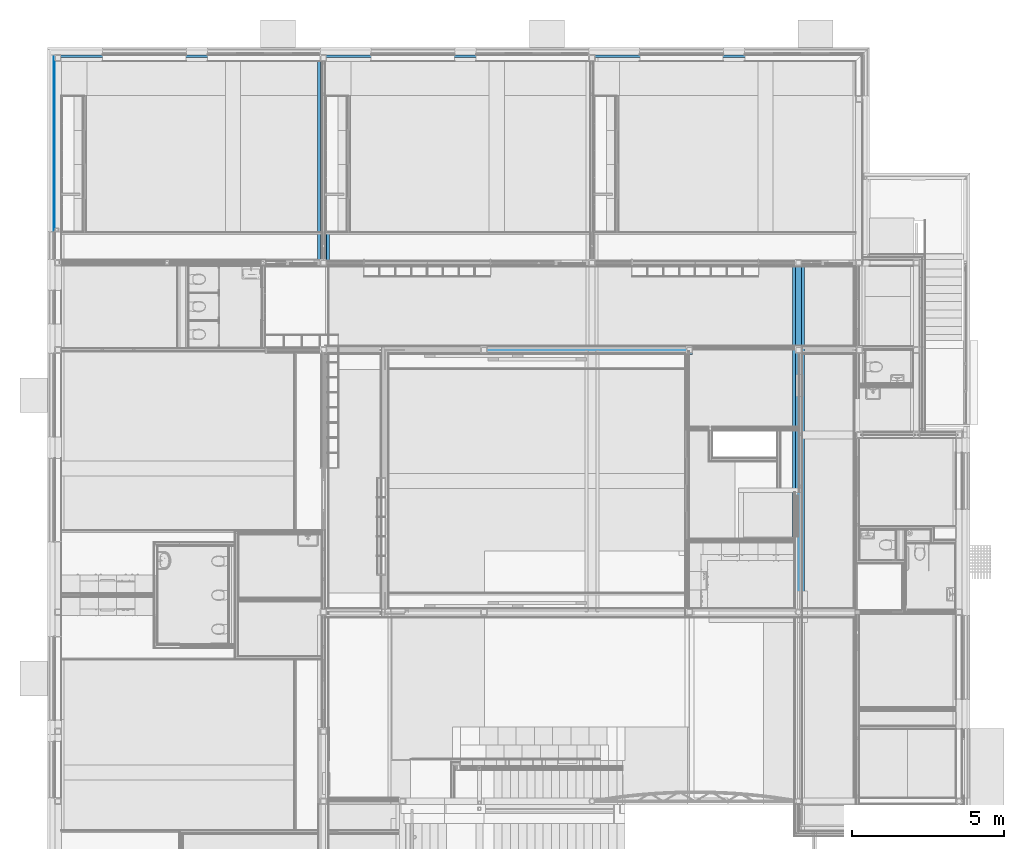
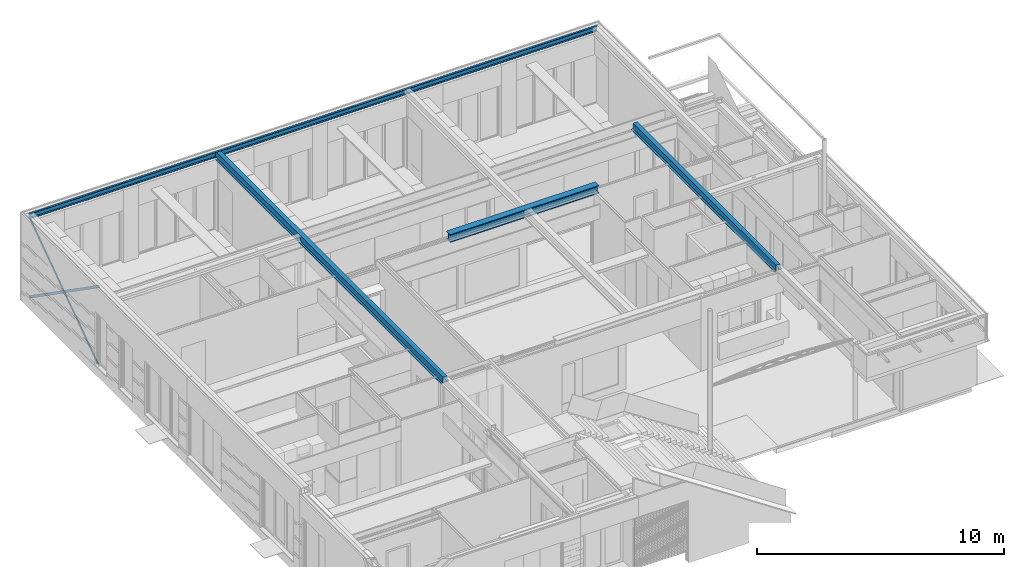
# One storey, part 13 of 165: 6 beams.
"""IFC2X3 building model written with IfcOpenShell, lengths in millimetres."""

from ifc_helpers import new_model, entity, si_unit, converted_unit, derived_unit, money_unit, direction, frame, origin_with_axes, place, context, subcontext, project, spatial, faceted_brep, material, type_object, element, save


model = new_model("IFC2X3")

# Units and contexts
model_context = context("Model", 3, precision=0.01, world=origin_with_axes(), true_north=direction((0.0, 1.0)))
body_context = subcontext(model_context, "Body", "Model", "MODEL_VIEW")
ifc_project = project(units=[si_unit("LENGTHUNIT", "METRE", prefix="MILLI"), si_unit("AREAUNIT", "SQUARE_METRE"), si_unit("VOLUMEUNIT", "CUBIC_METRE"), converted_unit("PLANEANGLEUNIT", "DEGREE", entity("IfcPlaneAngleMeasure", 0.0174532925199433), si_unit("PLANEANGLEUNIT", "RADIAN"), dimensions=[0, 0, 0, 0, 0, 0, 0]), money_unit("EUR"), converted_unit("TIMEUNIT", "Year", entity("IfcTimeMeasure", 31556926.0), si_unit("TIMEUNIT", "SECOND"), dimensions=[0, 0, 1, 0, 0, 0, 0]), si_unit("MASSUNIT", "GRAM", prefix="KILO"), si_unit("THERMODYNAMICTEMPERATUREUNIT", "DEGREE_CELSIUS"), si_unit("LUMINOUSINTENSITYUNIT", "LUMEN"), si_unit("ENERGYUNIT", "JOULE", prefix="MEGA"), derived_unit("THERMALCONDUCTANCEUNIT", [(si_unit("POWERUNIT", "WATT"), 1), (si_unit("LENGTHUNIT", "METRE"), -1), (si_unit("THERMODYNAMICTEMPERATUREUNIT", "KELVIN"), -1)]), derived_unit("SPECIFICHEATCAPACITYUNIT", [(si_unit("ENERGYUNIT", "JOULE"), 1), (si_unit("MASSUNIT", "GRAM", prefix="KILO"), -1), (si_unit("THERMODYNAMICTEMPERATUREUNIT", "KELVIN"), -1)]), derived_unit("MASSDENSITYUNIT", [(si_unit("MASSUNIT", "GRAM", prefix="KILO"), 1), (si_unit("VOLUMEUNIT", "CUBIC_METRE"), -1)])], contexts=[model_context])

# Site, building, storey
site_placement = place(None, origin_with_axes())
site = spatial("IfcSite", under=ifc_project, at=site_placement, Name="Site", CompositionType="ELEMENT")
building_placement = place(site_placement, origin_with_axes())
building = spatial("IfcBuilding", under=site, at=building_placement, Name="Naam gebouw", CompositionType="ELEMENT")
storey_placement = place(building_placement, origin_with_axes())
storey = spatial("IfcBuildingStorey", under=building, at=storey_placement, Name="Begane grond", CompositionType="ELEMENT", Elevation=0.0)

# Beams
ifc_material = material(Name="Metaal - Staal C")
beam_type_1 = type_object("IfcBeamType", Name="UNP260 90 x 260", PredefinedType="BEAM")
beam_1_placement = place(storey_placement, frame((0.0, 29175.0, 3729.999999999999), z_axis=(0.0, 0.0, 1.0), x_axis=(0.0, -1.0, 0.0)))
element("IfcBeam", 1, at=beam_1_placement, inside=storey, type_object=beam_type_1, material=ifc_material, Name="h METAAL_Regenwaterafvoer-x", ObjectType="BEAM", context=body_context, shape_type="Brep", body=[
    faceted_brep([(0.0, 0.0, -129.9999999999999), (0.0, 26600.0, -129.9999999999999), (89.99999999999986, 26600.0, -129.9999999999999), (89.99999999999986, 0.0, -129.9999999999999), (0.0, 0.0, 129.9999999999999), (0.0, 26600.0, 129.9999999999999), (89.99999999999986, 26600.0, 129.9999999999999), (89.99999999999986, 26600.0, 116.0000000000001), (9.99999999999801, 26600.0, 116.0000000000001), (9.99999999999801, 26600.0, -116.0000000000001), (89.99999999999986, 26600.0, -116.0000000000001), (89.99999999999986, 0.0, -116.0000000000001), (10.00000000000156, 0.0, -116.0000000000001), (10.00000000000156, 0.0, 116.0000000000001), (89.99999999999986, 0.0, 116.0000000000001), (89.99999999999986, 0.0, 129.9999999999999)], [[[0, 1, 2, 3]], [[4, 5, 1, 0]], [[2, 1, 5, 6, 7, 8, 9, 10]], [[3, 2, 10, 11]], [[4, 0, 3, 11, 12, 13, 14, 15]], [[15, 6, 5, 4]], [[14, 7, 6, 15]], [[13, 8, 7, 14]], [[12, 9, 8, 13]], [[11, 10, 9, 12]]]),
])
beam_type_2 = type_object("IfcBeamType", Name="HEM360 308 x 395", PredefinedType="BEAM")
beam_2_placement = place(storey_placement, frame((21009.99793409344, 19449.99981121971, 3662.499999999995), z_axis=(0.0, 0.0, 1.0), x_axis=(0.0, 1.0, 0.0)))
element("IfcBeam", 2, at=beam_2_placement, inside=storey, type_object=beam_type_2, material=ifc_material, Name="h METAAL_Regenwaterafvoer-x", ObjectType="BEAM", context=body_context, shape_type="Brep", body=[
    faceted_brep([(-90.0000000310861, 10.00000000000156, -197.5000000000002), (-90.0000000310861, 190.0000000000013, -197.5000000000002), (89.99999996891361, 190.0000000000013, -197.5000000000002), (89.99999996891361, 10.00000000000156, -197.5000000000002), (-90.0000000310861, 190.0000000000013, -167.5), (-90.0000000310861, 10.00000000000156, -167.5), (89.99999996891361, 190.0000000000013, -167.5), (89.99999996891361, 10.00000000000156, -167.5), (99.99999996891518, 200.0000000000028, -167.5), (99.99999996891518, 0.0, -167.5), (-100.0000000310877, 0.0, -167.5), (-100.0000000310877, 200.0000000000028, -167.5), (99.99999996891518, 200.0000000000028, -197.5000000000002), (99.99999996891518, 0.0, -197.5000000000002), (-153.9999999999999, 0.0, -197.5000000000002), (-100.0000000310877, 0.0, -197.5000000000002), (153.9999999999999, 0.0, -197.5000000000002), (153.9999999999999, 0.0, -157.5000000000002), (10.5000000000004, 0.0, -157.5000000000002), (10.5000000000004, 0.0, 157.5000000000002), (153.9999999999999, 0.0, 157.5000000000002), (153.9999999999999, 0.0, 197.5000000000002), (-153.9999999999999, 0.0, 197.5000000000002), (-153.9999999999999, 0.0, 157.5000000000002), (-10.5000000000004, 0.0, 157.5000000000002), (-10.5000000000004, 0.0, -157.5000000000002), (-153.9999999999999, 0.0, -157.5000000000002), (-100.0000000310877, 200.0000000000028, -197.5000000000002), (-153.9999999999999, 6969.999984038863, -197.5000000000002), (-99.99999999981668, 6969.999984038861, -197.5000000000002), (-99.99999999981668, 6769.999984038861, -197.5000000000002), (100.0000000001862, 6769.999984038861, -197.5000000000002), (100.0000000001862, 6969.999984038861, -197.5000000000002), (153.9999999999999, 6969.999984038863, -197.5000000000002), (153.9999999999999, 6969.999984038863, -157.5000000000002), (10.5000000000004, 6969.999984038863, -157.5000000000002), (10.5000000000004, 6969.999984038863, 157.5000000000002), (153.9999999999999, 6969.999984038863, 157.5000000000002), (153.9999999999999, 6969.999984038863, 197.5000000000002), (-153.9999999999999, 6969.999984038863, 197.5000000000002), (-153.9999999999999, 6969.999984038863, 157.5000000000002), (-10.5000000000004, 6969.999984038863, 157.5000000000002), (-10.5000000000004, 6969.999984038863, -157.5000000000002), (-153.9999999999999, 6969.999984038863, -157.5000000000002), (100.0000000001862, 6969.999984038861, -167.5), (-99.99999999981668, 6969.999984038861, -167.5), (-99.99999999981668, 6769.999984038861, -167.5), (100.0000000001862, 6769.999984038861, -167.5), (90.0000000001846, 6959.999984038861, -167.5), (-89.99999999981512, 6959.999984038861, -167.5), (-89.99999999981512, 6779.999984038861, -167.5), (90.0000000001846, 6779.999984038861, -167.5), (90.0000000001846, 6959.999984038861, -197.5000000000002), (-89.99999999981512, 6959.999984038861, -197.5000000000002), (-89.99999999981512, 6779.999984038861, -197.5000000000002), (90.0000000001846, 6779.999984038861, -197.5000000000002)], [[[0, 1, 2, 3]], [[4, 1, 0, 5]], [[6, 2, 1, 4]], [[7, 3, 2, 6]], [[5, 0, 3, 7]], [[8, 9, 10, 11], [6, 4, 5, 7]], [[12, 13, 9, 8]], [[14, 15, 10, 9, 13, 16, 17, 18, 19, 20, 21, 22, 23, 24, 25, 26]], [[11, 10, 15, 27]], [[11, 27, 12, 8]], [[12, 27, 15, 14, 28, 29, 30, 31, 32, 33, 16, 13]], [[17, 16, 33, 34]], [[18, 17, 34, 35]], [[19, 18, 35, 36]], [[20, 19, 36, 37]], [[21, 20, 37, 38]], [[22, 21, 38, 39]], [[23, 22, 39, 40]], [[24, 23, 40, 41]], [[25, 24, 41, 42]], [[26, 25, 42, 43]], [[14, 26, 43, 28]], [[44, 45, 29, 28, 43, 42, 41, 40, 39, 38, 37, 36, 35, 34, 33, 32]], [[46, 30, 29, 45]], [[47, 31, 30, 46]], [[44, 32, 31, 47]], [[46, 45, 44, 47], [48, 49, 50, 51]], [[48, 52, 53, 49]], [[49, 53, 54, 50]], [[50, 54, 55, 51]], [[51, 55, 52, 48]], [[54, 53, 52, 55]]]),
])
beam_type_3 = type_object("IfcBeamType", Name="28 THQ 01 400 x 280", PredefinedType="BEAM")
beam_3_placement = place(storey_placement, frame((24499.99903999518, 22424.99984707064, 3860.000026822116), z_axis=(0.0, 0.0, 1.0), x_axis=(-1.0, 0.0, 0.0)))
element("IfcBeam", 3, at=beam_3_placement, inside=storey, type_object=beam_type_3, material=ifc_material, Name="h METAAL_Regenwaterafvoer-x", ObjectType="BEAM", context=body_context, shape_type="Brep", body=[
    faceted_brep([(-84.35000000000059, 11614.99973651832, -264.9999977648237), (84.35000000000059, 11614.99973651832, -264.9999977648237), (84.35000000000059, 11614.99973651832, -279.9999977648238), (-84.35000000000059, 11614.99973651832, -279.9999977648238), (70.95973549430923, 11569.39668356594, -264.9999977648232), (80.93323232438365, 11591.23559534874, -264.9999977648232), (-80.93323232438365, 11591.23559534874, -264.9999977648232), (-70.95973549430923, 11569.39668356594, -264.9999977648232), (-55.23750290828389, 11551.25225992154, -264.9999977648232), (-35.04025634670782, 11538.27227771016, -264.9999977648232), (-12.00425660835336, 11531.50829789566, -264.9999977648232), (12.00425660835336, 11531.50829789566, -264.9999977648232), (35.04025634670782, 11538.27227771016, -264.9999977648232), (55.23750290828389, 11551.25225992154, -264.9999977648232), (80.93323232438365, 11591.23559534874, -279.9999977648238), (-70.95973549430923, 11569.39668356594, -279.9999977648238), (-80.93323232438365, 11591.23559534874, -279.9999977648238), (70.95973549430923, 11569.39668356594, -279.9999977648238), (55.23750290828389, 11551.25225992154, -279.9999977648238), (35.04025634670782, 11538.27227771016, -279.9999977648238), (12.00425660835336, 11531.50829789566, -279.9999977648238), (-12.00425660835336, 11531.50829789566, -279.9999977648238), (-35.04025634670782, 11538.27227771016, -279.9999977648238), (-55.23750290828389, 11551.25225992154, -279.9999977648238)], [[[0, 1, 2, 3]], [[4, 5, 1, 0, 6, 7, 8, 9, 10, 11, 12, 13]], [[2, 1, 5, 14]], [[15, 16, 3, 2, 14, 17, 18, 19, 20, 21, 22, 23]], [[16, 6, 0, 3]], [[14, 5, 4, 17]], [[15, 7, 6, 16]], [[23, 8, 7, 15]], [[22, 9, 8, 23]], [[21, 10, 9, 22]], [[20, 11, 10, 21]], [[19, 12, 11, 20]], [[18, 13, 12, 19]], [[17, 4, 13, 18]]]),
    faceted_brep([(-89.98443325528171, 3064.99945414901, -279.9999977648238), (90.015566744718, 3064.99945414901, -279.9999977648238), (90.015566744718, 2884.99945414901, -279.9999977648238), (-89.98443325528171, 2884.99945414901, -279.9999977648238), (-89.98443325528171, 3064.99945414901, -264.9999977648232), (90.015566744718, 3064.99945414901, -264.9999977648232), (90.015566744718, 2884.99945414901, -264.9999977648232), (-89.98443325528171, 2884.99945414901, -264.9999977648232)], [[[0, 1, 2, 3]], [[0, 4, 5, 1]], [[1, 5, 6, 2]], [[2, 6, 7, 3]], [[3, 7, 4, 0]], [[6, 5, 4, 7]]]),
    faceted_brep([(-90.00000000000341, 190.0000000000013, -279.9999977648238), (89.9999999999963, 190.0000000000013, -279.9999977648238), (89.9999999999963, 10.00000000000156, -279.9999977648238), (-90.00000000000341, 10.00000000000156, -279.9999977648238), (-90.00000000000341, 190.0000000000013, -264.9999977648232), (89.9999999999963, 190.0000000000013, -264.9999977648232), (89.9999999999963, 10.00000000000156, -264.9999977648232), (-90.00000000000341, 10.00000000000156, -264.9999977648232)], [[[0, 1, 2, 3]], [[0, 4, 5, 1]], [[1, 5, 6, 2]], [[2, 6, 7, 3]], [[3, 7, 4, 0]], [[6, 5, 4, 7]]]),
    faceted_brep([(94.99999999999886, 0.0, -260.0000268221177), (99.99999999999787, 0.0, -260.0000268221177), (99.99999999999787, 0.0, -279.9999977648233), (199.9999999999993, 0.0, -279.9999977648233), (199.9999999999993, 0.0, -264.9999977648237), (100.9999999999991, 0.0, -264.9999977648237), (100.9999999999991, 0.0, 0.0), (-100.9999999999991, 0.0, 0.0), (-100.9999999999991, 0.0, -264.9999977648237), (-199.9999999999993, 0.0, -264.9999977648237), (-199.9999999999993, 0.0, -279.9999977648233), (-100.000000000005, 0.0, -279.9999977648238), (-100.000000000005, 0.0, -260.0000268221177), (-94.99999999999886, 0.0, -260.0000268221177), (-94.99999999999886, 0.0, -29.9999999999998), (94.99999999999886, 0.0, -29.9999999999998), (99.99999999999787, 200.0000000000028, -260.0000268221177), (94.99999999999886, 200.0000000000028, -260.0000268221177), (99.99999999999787, 200.0000000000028, -279.9999977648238), (-100.000000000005, 200.0000000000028, -279.9999977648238), (-200.0000000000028, 11614.99973651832, -279.9999977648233), (-96.84999999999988, 11614.99973651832, -279.9999977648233), (-92.92689449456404, 11587.71393838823, -279.9999977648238), (-81.47540465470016, 11562.63867334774, -279.9999977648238), (-63.42326208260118, 11541.80539024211, -279.9999977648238), (-40.23294400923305, 11526.90187776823, -279.9999977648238), (-13.78319208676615, 11519.13552987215, -279.9999977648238), (13.78319208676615, 11519.13552987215, -279.9999977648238), (40.23294400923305, 11526.90187776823, -279.9999977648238), (63.42326208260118, 11541.80539024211, -279.9999977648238), (81.47540465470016, 11562.63867334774, -279.9999977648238), (92.92689449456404, 11587.71393838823, -279.9999977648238), (96.84999999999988, 11614.99973651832, -279.9999977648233), (199.9999999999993, 11614.99973651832, -279.9999977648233), (100.0155667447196, 2874.999454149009, -279.9999977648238), (100.0155667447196, 3074.999454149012, -279.9999977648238), (-99.98443325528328, 3074.999454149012, -279.9999977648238), (-99.98443325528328, 2874.999454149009, -279.9999977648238), (199.9999999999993, 11614.99973651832, -264.9999977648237), (100.9999999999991, 11614.99973651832, -264.9999977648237), (100.9999999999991, 11614.99973651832, 0.0), (-101.0000000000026, 11614.99973651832, 0.0), (-101.0000000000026, 11614.99973651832, -264.9999977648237), (-200.0000000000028, 11614.99973651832, -264.9999977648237), (-100.000000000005, 200.0000000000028, -260.0000268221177), (-94.99999999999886, 200.0000000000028, -260.0000268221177), (-94.99999999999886, 200.0000000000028, -264.9999977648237), (-94.99999999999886, 2874.999454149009, -264.9999977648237), (-94.99999999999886, 2874.999454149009, -260.0000268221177), (-94.99999999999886, 3074.999454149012, -260.0000268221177), (-94.99999999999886, 3074.999454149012, -264.9999977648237), (-95.00000000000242, 11602.13270389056, -264.9999977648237), (-94.99999999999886, 11602.13270389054, -260.0000268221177), (-95.00000000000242, 11614.99973651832, -260.0000268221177), (-95.00000000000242, 11614.99973651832, -29.9999999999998), (94.99999999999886, 11614.99973651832, -29.9999999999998), (94.99999999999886, 200.0000000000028, -264.9999977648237), (94.99999999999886, 11614.99973651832, -260.0000268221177), (94.99999999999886, 11602.13270389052, -260.0000268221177), (94.99999999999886, 11602.13270389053, -264.9999977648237), (94.99999999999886, 3074.999454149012, -264.9999977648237), (94.99999999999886, 3074.999454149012, -260.0000268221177), (94.99999999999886, 2874.999454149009, -260.0000268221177), (94.99999999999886, 2874.999454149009, -264.9999977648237), (96.84999999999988, 11614.99973651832, -260.0000268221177), (-96.84999999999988, 11614.99973651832, -260.0000268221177), (-92.92689449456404, 11587.71393838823, -264.9999977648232), (-81.47540465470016, 11562.63867334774, -264.9999977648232), (-63.42326208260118, 11541.80539024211, -264.9999977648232), (-40.23294400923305, 11526.90187776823, -264.9999977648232), (-13.78319208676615, 11519.13552987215, -264.9999977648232), (13.78319208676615, 11519.13552987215, -264.9999977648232), (40.23294400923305, 11526.90187776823, -264.9999977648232), (63.42326208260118, 11541.80539024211, -264.9999977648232), (81.47540465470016, 11562.63867334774, -264.9999977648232), (92.92689449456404, 11587.71393838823, -264.9999977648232), (100.0155667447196, 3074.999454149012, -260.0000268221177), (100.0155667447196, 2874.999454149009, -260.0000268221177), (-99.98443325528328, 3074.999454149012, -260.0000268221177), (-99.98443325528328, 2874.999454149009, -260.0000268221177)], [[[0, 1, 2, 3, 4, 5, 6, 7, 8, 9, 10, 11, 12, 13, 14, 15]], [[16, 1, 0, 17]], [[18, 2, 1, 16]], [[18, 19, 11, 10, 20, 21, 22, 23, 24, 25, 26, 27, 28, 29, 30, 31, 32, 33, 3, 2], [34, 35, 36, 37]], [[38, 4, 3, 33]], [[39, 5, 4, 38]], [[40, 6, 5, 39]], [[41, 7, 6, 40]], [[42, 8, 7, 41]], [[43, 9, 8, 42]], [[20, 10, 9, 43]], [[44, 12, 11, 19]], [[45, 13, 12, 44]], [[13, 45, 46, 47, 48, 49, 50, 51, 52, 53, 54, 14]], [[55, 15, 14, 54]], [[56, 17, 0, 15, 55, 57, 58, 59, 60, 61, 62, 63]], [[44, 19, 18, 16, 17, 56, 46, 45]], [[32, 64, 57, 55, 54, 53, 65, 21, 20, 43, 42, 41, 40, 39, 38, 33]], [[66, 22, 21, 65, 52, 51]], [[22, 66, 67, 23]], [[23, 67, 68, 24]], [[24, 68, 69, 25]], [[25, 69, 70, 26]], [[26, 70, 71, 27]], [[27, 71, 72, 28]], [[28, 72, 73, 29]], [[29, 73, 74, 30]], [[30, 74, 75, 31]], [[31, 75, 59, 58, 64, 32]], [[76, 35, 34, 77]], [[78, 36, 35, 76, 61, 60, 50, 49]], [[79, 37, 36, 78]], [[77, 34, 37, 79, 48, 47, 63, 62]], [[47, 46, 56, 63]], [[78, 49, 48, 79]], [[51, 50, 60, 59, 75, 74, 73, 72, 71, 70, 69, 68, 67, 66]], [[52, 65, 53]], [[64, 58, 57]], [[77, 62, 61, 76]]]),
])
beam_type_4 = type_object("IfcBeamType", Name="28 THQ 03 400 x 290", PredefinedType="BEAM")
beam_4_placement = place(storey_placement, frame((8850.000000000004, 29175.0, 3860.0), z_axis=(0.0, 0.0, 1.0), x_axis=(-1.0, 0.0, 0.0)))
element("IfcBeam", 4, at=beam_4_placement, inside=storey, type_object=beam_type_4, material=ifc_material, Name="h METAAL_Regenwaterafvoer-x", ObjectType="BEAM", context=body_context, shape_type="Brep", body=[
    faceted_brep([(-90.00000000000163, 190.0000000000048, -289.9999977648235), (89.99999999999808, 190.0000000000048, -289.9999977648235), (89.99999999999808, 10.00000000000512, -289.9999977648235), (-90.00000000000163, 10.00000000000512, -289.9999977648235), (-90.00000000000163, 190.0000000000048, -264.9999977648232), (89.99999999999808, 190.0000000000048, -264.9999977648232), (89.99999999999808, 10.00000000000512, -264.9999977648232), (-90.00000000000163, 10.00000000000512, -264.9999977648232)], [[[0, 1, 2, 3]], [[0, 4, 5, 1]], [[1, 5, 6, 2]], [[2, 6, 7, 3]], [[3, 7, 4, 0]], [[6, 5, 4, 7]]]),
    faceted_brep([(-89.99999999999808, 18454.99988944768, -289.9999977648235), (90.00000000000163, 18454.99988944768, -289.9999977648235), (90.00000000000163, 18274.99988944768, -289.9999977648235), (-89.99999999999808, 18274.99988944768, -289.9999977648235), (-89.99999999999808, 18454.99988944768, -264.9999977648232), (90.00000000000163, 18454.99988944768, -264.9999977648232), (90.00000000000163, 18274.99988944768, -264.9999977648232), (-89.99999999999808, 18274.99988944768, -264.9999977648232)], [[[0, 1, 2, 3]], [[0, 4, 5, 1]], [[1, 5, 6, 2]], [[2, 6, 7, 3]], [[3, 7, 4, 0]], [[6, 5, 4, 7]]]),
    faceted_brep([(-89.99999999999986, 9815.000188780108, -289.9999977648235), (89.99999999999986, 9815.000188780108, -289.9999977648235), (89.99999999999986, 9635.000188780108, -289.9999977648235), (-89.99999999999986, 9635.000188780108, -289.9999977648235), (-89.99999999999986, 9815.000188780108, -264.9999977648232), (89.99999999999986, 9815.000188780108, -264.9999977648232), (89.99999999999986, 9635.000188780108, -264.9999977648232), (-89.99999999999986, 9635.000188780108, -264.9999977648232)], [[[0, 1, 2, 3]], [[0, 4, 5, 1]], [[1, 5, 6, 2]], [[2, 6, 7, 3]], [[3, 7, 4, 0]], [[6, 5, 4, 7]]]),
    faceted_brep([(-89.99999999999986, 6940.000152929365, -289.9999977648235), (89.99999999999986, 6940.000152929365, -289.9999977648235), (89.99999999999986, 6760.000152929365, -289.9999977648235), (-89.99999999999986, 6760.000152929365, -289.9999977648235), (-89.99999999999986, 6940.000152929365, -264.9999977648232), (89.99999999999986, 6940.000152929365, -264.9999977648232), (89.99999999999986, 6760.000152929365, -264.9999977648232), (-89.99999999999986, 6760.000152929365, -264.9999977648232)], [[[0, 1, 2, 3]], [[0, 4, 5, 1]], [[1, 5, 6, 2]], [[2, 6, 7, 3]], [[3, 7, 4, 0]], [[6, 5, 4, 7]]]),
    faceted_brep([(-94.99999999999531, 6750.000152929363, -260.0000000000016), (-94.99999999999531, 6950.000152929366, -260.0000000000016), (-94.99999999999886, 6950.000152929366, -264.9999977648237), (-95.00000000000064, 9625.000188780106, -264.9999977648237), (-94.99999999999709, 9625.000188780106, -260.0000000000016), (-94.99999999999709, 9825.000188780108, -260.0000000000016), (-95.00000000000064, 9825.000188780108, -264.9999977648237), (-95.00000000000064, 18264.99988944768, -264.9999977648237), (-94.99999999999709, 18264.99988944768, -260.0000000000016), (-95.00000000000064, 18464.99988944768, -260.0000000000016), (-95.00000000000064, 18464.99988944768, -40.00000000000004), (-95.00000000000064, 10.00000000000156, -40.00000000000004), (-94.99999999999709, 10.00000000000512, -246.0000000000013), (-94.99999999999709, 90.00000000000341, -246.0000000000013), (-94.99999999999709, 90.00000000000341, -260.0000000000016), (-94.99999999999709, 200.0000000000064, -260.0000000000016), (-95.00000000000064, 200.0000000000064, -264.9999977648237), (-94.99999999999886, 6750.000152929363, -264.9999977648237), (-99.99999999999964, 6950.000152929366, -260.0000000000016), (-99.99999999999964, 6750.000152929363, -260.0000000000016), (-99.99999999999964, 6950.000152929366, -289.9999977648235), (99.99999999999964, 6950.000152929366, -289.9999977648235), (99.99999999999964, 6950.000152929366, -260.0000000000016), (95.00000000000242, 6950.000152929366, -260.0000000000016), (95.00000000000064, 6950.000152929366, -264.9999977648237), (95.00000000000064, 9625.000188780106, -264.9999977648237), (99.99999999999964, 9625.000188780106, -260.0000000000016), (99.99999999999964, 9625.000188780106, -289.9999977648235), (-99.99999999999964, 9625.000188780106, -289.9999977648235), (-99.99999999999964, 9625.000188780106, -260.0000000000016), (95.00000000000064, 9625.000188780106, -260.0000000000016), (-99.99999999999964, 9825.000188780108, -260.0000000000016), (-99.99999999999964, 9825.000188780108, -289.9999977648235), (99.99999999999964, 9825.000188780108, -289.9999977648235), (99.99999999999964, 9825.000188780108, -260.0000000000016), (95.00000000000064, 9825.000188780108, -260.0000000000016), (95.00000000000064, 9825.000188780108, -264.9999977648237), (94.99999999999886, 18264.99988944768, -264.9999977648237), (100.0000000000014, 18264.99988944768, -260.0000000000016), (100.0000000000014, 18264.99988944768, -289.9999977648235), (-99.99999999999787, 18264.99988944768, -289.9999977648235), (-99.99999999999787, 18264.99988944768, -260.0000000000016), (95.00000000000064, 18264.99988944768, -260.0000000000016), (-99.99999999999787, 18464.99988944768, -260.0000000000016), (-99.99999999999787, 18464.99988944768, -289.9999977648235), (-200.0000000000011, 18464.99988944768, -289.9999977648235), (-200.0000000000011, 18464.99988944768, -264.9999977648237), (-102.9999999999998, 18464.99988944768, -264.9999977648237), (-102.9999999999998, 18464.99988944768, 0.0), (102.9999999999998, 18464.99988944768, 0.0), (102.9999999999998, 18464.99988944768, -264.9999977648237), (199.9999999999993, 18464.99988944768, -264.9999977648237), (199.9999999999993, 18464.99988944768, -289.9999977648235), (100.0000000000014, 18464.99988944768, -289.9999977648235), (100.0000000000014, 18464.99988944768, -260.0000000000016), (94.99999999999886, 18464.99988944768, -260.0000000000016), (94.99999999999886, 18464.99988944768, -40.00000000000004), (95.00000000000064, 10.00000000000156, -40.00000000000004), (103.0000000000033, 10.00000000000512, -246.0000000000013), (103.0000000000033, 10.00000000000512, -14.00000000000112), (-102.9999999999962, 10.00000000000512, -14.00000000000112), (-102.9999999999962, 10.00000000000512, -246.0000000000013), (95.00000000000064, 10.00000000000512, -246.0000000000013), (-102.9999999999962, 90.00000000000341, -246.0000000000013), (-102.9999999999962, 90.00000000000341, -260.0000000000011), (-100.0000000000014, 90.00000000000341, -260.0000000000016), (-100.0000000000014, 200.0000000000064, -260.0000000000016), (-100.0000000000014, 200.0000000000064, -289.9999977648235), (99.99999999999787, 200.0000000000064, -289.9999977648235), (99.99999999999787, 200.0000000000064, -260.0000000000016), (95.00000000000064, 200.0000000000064, -260.0000000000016), (95.00000000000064, 200.0000000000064, -264.9999977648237), (95.00000000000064, 6750.000152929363, -264.9999977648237), (99.99999999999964, 6750.000152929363, -260.0000000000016), (99.99999999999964, 6750.000152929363, -289.9999977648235), (-99.99999999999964, 6750.000152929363, -289.9999977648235), (95.00000000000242, 6750.000152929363, -260.0000000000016), (199.9999999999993, 0.0, -289.9999977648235), (99.99999999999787, 0.0, -289.9999977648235), (-100.0000000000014, 0.0, -289.9999977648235), (-199.9999999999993, 0.0, -289.9999977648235), (95.00000000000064, 90.00000000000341, -260.0000000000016), (95.00000000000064, 90.00000000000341, -246.0000000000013), (-199.9999999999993, 0.0, -264.9999977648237), (-102.9999999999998, 0.0, -264.9999977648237), (-102.9999999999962, 90.00000000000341, -14.00000000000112), (-102.9999999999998, 90.00000000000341, 0.0), (-102.9999999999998, 0.0, -260.0000000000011), (102.9999999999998, 90.00000000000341, 0.0), (103.0000000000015, 6720.023785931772, 0.0), (100.9890284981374, 6720.023785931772, 0.0), (100.9890284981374, 6980.02378593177, 0.0), (103.0000000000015, 6980.02378593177, 0.0), (103.0000000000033, 90.00000000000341, -246.0000000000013), (103.0000000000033, 90.00000000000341, -260.0000000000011), (102.9999999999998, 0.0, -260.0000000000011), (102.9999999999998, 0.0, -264.9999977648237), (103.0000000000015, 6980.02378593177, -17.49999999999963), (103.0000000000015, 6855.02378593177, -17.49999999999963), (103.0000000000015, 6855.02378593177, -242.4999999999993), (103.0000000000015, 6980.02378593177, -242.4999999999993), (103.0000000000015, 6980.02378593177, -259.9999999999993), (103.0000000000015, 6720.023785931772, -259.9999999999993), (103.0000000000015, 6720.023785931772, -242.4999999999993), (103.0000000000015, 6845.023785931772, -242.4999999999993), (103.0000000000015, 6845.023785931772, -17.49999999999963), (103.0000000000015, 6720.023785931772, -17.49999999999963), (103.0000000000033, 90.00000000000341, -14.00000000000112), (199.9999999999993, 0.0, -264.9999977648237), (-100.0000000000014, 0.0, -260.0000000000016), (99.99999999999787, 0.0, -260.0000000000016), (99.99999999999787, 90.00000000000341, -260.0000000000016), (100.9890284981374, 6720.023785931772, -17.49999999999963), (100.9890284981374, 6855.02378593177, -242.4999999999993), (100.9890284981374, 6855.02378593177, -17.49999999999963), (100.9890284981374, 6980.02378593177, -17.49999999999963), (100.9890284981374, 6845.023785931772, -17.49999999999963), (100.9890284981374, 6845.023785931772, -242.4999999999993), (100.9890284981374, 6720.023785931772, -242.4999999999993), (100.9890284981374, 6720.023785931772, -259.9999999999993), (100.9890284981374, 6980.02378593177, -259.9999999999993), (100.9890284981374, 6980.02378593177, -242.4999999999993)], [[[0, 1, 2, 3, 4, 5, 6, 7, 8, 9, 10, 11, 12, 13, 14, 15, 16, 17]], [[18, 1, 0, 19]], [[18, 20, 21, 22, 23, 24, 2, 1]], [[3, 2, 24, 25]], [[26, 27, 28, 29, 4, 3, 25, 30]], [[31, 5, 4, 29]], [[31, 32, 33, 34, 35, 36, 6, 5]], [[7, 6, 36, 37]], [[38, 39, 40, 41, 8, 7, 37, 42]], [[41, 43, 9, 8]], [[9, 43, 44, 45, 46, 47, 48, 49, 50, 51, 52, 53, 54, 55, 56, 10]], [[10, 56, 57, 11]], [[58, 59, 60, 61, 12, 11, 57, 62]], [[13, 12, 61, 63]], [[64, 65, 14, 13, 63]], [[15, 14, 65, 66]], [[66, 67, 68, 69, 70, 71, 16, 15]], [[71, 72, 17, 16]], [[73, 74, 75, 19, 0, 17, 72, 76]], [[19, 75, 20, 18]], [[40, 39, 53, 52, 77, 78, 68, 67, 79, 80, 45, 44], [27, 33, 32, 28], [74, 21, 20, 75]], [[22, 21, 74, 73]], [[73, 76, 23, 22]], [[23, 76, 72, 71, 70, 81, 82, 62, 57, 56, 55, 42, 37, 36, 35, 30, 25, 24]], [[34, 33, 27, 26]], [[29, 28, 32, 31]], [[26, 30, 35, 34]], [[54, 53, 39, 38]], [[41, 40, 44, 43]], [[38, 42, 55, 54]], [[80, 83, 46, 45]], [[83, 84, 47, 46]], [[61, 60, 85, 86, 48, 47, 84, 87, 64, 63]], [[49, 48, 86, 88, 89, 90, 91, 92]], [[58, 93, 94, 95, 96, 50, 49, 92, 97, 98, 99, 100, 101, 102, 103, 104, 105, 106, 89, 88, 107, 59]], [[96, 108, 51, 50]], [[108, 77, 52, 51]], [[59, 107, 85, 60]], [[93, 58, 62, 82]], [[87, 109, 65, 64]], [[66, 65, 109, 79, 67]], [[68, 78, 110, 111, 69]], [[69, 111, 81, 70]], [[95, 110, 78, 77, 108, 96]], [[80, 79, 109, 87, 84, 83]], [[82, 81, 111, 94, 93]], [[85, 107, 88, 86]], [[89, 106, 112, 90]], [[113, 114, 115, 91, 90, 112, 116, 117, 118, 119, 120, 121]], [[91, 115, 97, 92]], [[94, 111, 110, 95]], [[97, 115, 114, 98]], [[98, 114, 113, 99]], [[99, 113, 121, 100]], [[100, 121, 120, 101]], [[101, 120, 119, 102]], [[102, 119, 118, 103]], [[103, 118, 117, 104]], [[104, 117, 116, 105]], [[105, 116, 112, 106]]]),
])
beam_type_5 = type_object("IfcBeamType", Name="Metaal - Staal C 15 x 120", PredefinedType="BEAM")
beam_5_placement = place(storey_placement, frame((0.0, 29075.56741081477, -230.0), z_axis=(0.0, 0.0, 1.0), x_axis=(-1.0, 0.0, 0.0)))
element("IfcBeam", 5, at=beam_5_placement, inside=storey, type_object=beam_type_5, material=ifc_material, Name="h METAAL_Regenwaterafvoer-x", ObjectType="BEAM", context=body_context, shape_type="Brep", body=[
    faceted_brep([(15.00000000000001, 34.37337697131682, -49.17795192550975), (0.0, 34.37337697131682, -49.17795192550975), (0.0, 5699.940940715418, 3910.82204807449), (14.99999999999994, 5699.940940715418, 3910.82204807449), (15.0, -34.37337697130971, 49.17795192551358), (0.0, -34.37337697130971, 49.17795192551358), (0.0, 5631.194186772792, 4009.177951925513), (14.99999999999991, 5631.194186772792, 4009.177951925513)], [[[0, 1, 2, 3]], [[4, 5, 1, 0]], [[1, 5, 6, 2]], [[7, 3, 2, 6]], [[4, 0, 3, 7]], [[5, 4, 7, 6]]]),
])
beam_6_placement = place(storey_placement, frame((-29.99999999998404, 23409.99984707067, -230.0), z_axis=(0.0, 0.0, 1.0), x_axis=(1.0, 0.0, 0.0)))
element("IfcBeam", 6, at=beam_6_placement, inside=storey, type_object=beam_type_5, material=ifc_material, Name="h METAAL_Regenwaterafvoer-x", ObjectType="BEAM", context=body_context, shape_type="Brep", body=[
    faceted_brep([(0.0, 34.37337697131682, -49.17795192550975), (0.0, 5699.940940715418, 3910.82204807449), (14.99999999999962, 5699.940940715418, 3910.82204807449), (15.0, 34.37337697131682, -49.17795192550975), (0.0, -34.37337697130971, 49.17795192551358), (0.0, 5631.194186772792, 4009.177951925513), (14.99999999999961, 5631.194186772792, 4009.177951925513), (15.0, -34.37337697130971, 49.17795192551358)], [[[0, 1, 2, 3]], [[4, 5, 1, 0]], [[2, 1, 5, 6]], [[3, 2, 6, 7]], [[4, 0, 3, 7]], [[7, 6, 5, 4]]]),
])

save(model, "model.ifc")
